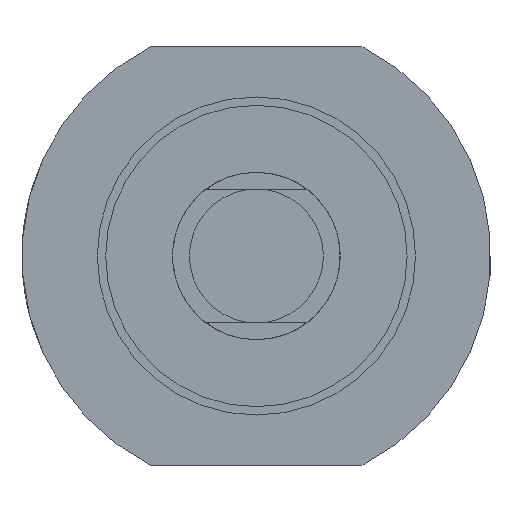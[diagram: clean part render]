
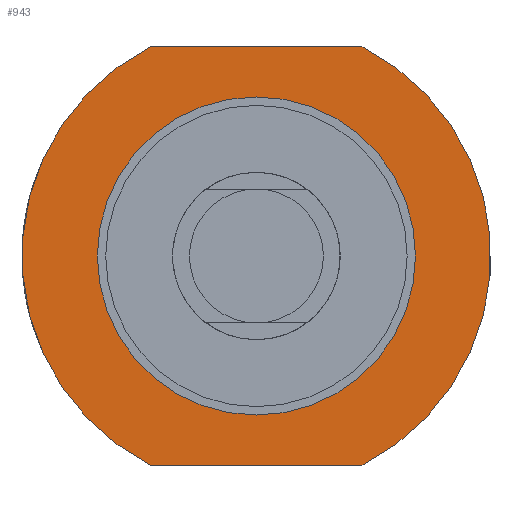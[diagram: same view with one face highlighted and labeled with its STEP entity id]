
A CAD part, left-side view. The second image highlights one B-rep face of the part: STEP entity #943.
In plain terms, the highlighted planar face has unit normal (-1, 0, 0).
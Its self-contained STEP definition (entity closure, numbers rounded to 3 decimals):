
#8 = ORIENTED_EDGE ( 'NONE', *, *, #417, .T. ) ;
#27 = ORIENTED_EDGE ( 'NONE', *, *, #1216, .F. ) ;
#99 = DIRECTION ( 'NONE',  ( 0., 0., -1. ) ) ;
#121 = DIRECTION ( 'NONE',  ( -1., 0., 0. ) ) ;
#123 = CARTESIAN_POINT ( 'NONE',  ( 34., 0., 0. ) ) ;
#144 = ORIENTED_EDGE ( 'NONE', *, *, #150, .F. ) ;
#150 = EDGE_CURVE ( 'NONE', #341, #1375, #1241, .T. ) ;
#156 = DIRECTION ( 'NONE',  ( -1., 0., 0. ) ) ;
#194 = DIRECTION ( 'NONE',  ( 0., -1., 0. ) ) ;
#207 = DIRECTION ( 'NONE',  ( 0., 0., 1. ) ) ;
#252 = CARTESIAN_POINT ( 'NONE',  ( 34., 11.874, 12.5 ) ) ;
#280 = AXIS2_PLACEMENT_3D ( 'NONE', #1367, #612, #207 ) ;
#297 = FACE_BOUND ( 'NONE', #1221, .T. ) ;
#329 = CARTESIAN_POINT ( 'NONE',  ( 34., 11.874, -12.5 ) ) ;
#341 = VERTEX_POINT ( 'NONE', #1443 ) ;
#352 = AXIS2_PLACEMENT_3D ( 'NONE', #1422, #121, #1183 ) ;
#417 = EDGE_CURVE ( 'NONE', #1238, #678, #725, .T. ) ;
#445 = EDGE_CURVE ( 'NONE', #605, #678, #624, .T. ) ;
#468 = VECTOR ( 'NONE', #194, 1000. ) ;
#549 = ORIENTED_EDGE ( 'NONE', *, *, #1132, .F. ) ;
#562 = CARTESIAN_POINT ( 'NONE',  ( 34., 6.305, -12.5 ) ) ;
#569 = ORIENTED_EDGE ( 'NONE', *, *, #445, .F. ) ;
#605 = VERTEX_POINT ( 'NONE', #1211 ) ;
#612 = DIRECTION ( 'NONE',  ( -1., 0., 0. ) ) ;
#624 = LINE ( 'NONE', #252, #468 ) ;
#654 = ORIENTED_EDGE ( 'NONE', *, *, #1633, .T. ) ;
#678 = VERTEX_POINT ( 'NONE', #1599 ) ;
#719 = DIRECTION ( 'NONE',  ( 1., 0., 0. ) ) ;
#725 = CIRCLE ( 'NONE', #352, 14. ) ;
#749 = FACE_OUTER_BOUND ( 'NONE', #1579, .T. ) ;
#772 = CARTESIAN_POINT ( 'NONE',  ( 34., 0., 0. ) ) ;
#845 = CIRCLE ( 'NONE', #1043, 9.5 ) ;
#943 = ADVANCED_FACE ( 'NONE', ( #297, #749 ), #1475, .F. ) ;
#980 = DIRECTION ( 'NONE',  ( -1., 0., 0. ) ) ;
#1043 = AXIS2_PLACEMENT_3D ( 'NONE', #772, #980, #1588 ) ;
#1100 = LINE ( 'NONE', #329, #1107 ) ;
#1107 = VECTOR ( 'NONE', #1315, 1000. ) ;
#1132 = EDGE_CURVE ( 'NONE', #1375, #341, #845, .T. ) ;
#1160 = CARTESIAN_POINT ( 'NONE',  ( 34., 0., -9.5 ) ) ;
#1183 = DIRECTION ( 'NONE',  ( 0., 0., 1. ) ) ;
#1195 = AXIS2_PLACEMENT_3D ( 'NONE', #123, #156, #1533 ) ;
#1211 = CARTESIAN_POINT ( 'NONE',  ( 34., 6.305, 12.5 ) ) ;
#1216 = EDGE_CURVE ( 'NONE', #1238, #1678, #1100, .T. ) ;
#1221 = EDGE_LOOP ( 'NONE', ( #144, #549 ) ) ;
#1238 = VERTEX_POINT ( 'NONE', #1291 ) ;
#1241 = CIRCLE ( 'NONE', #1195, 9.5 ) ;
#1291 = CARTESIAN_POINT ( 'NONE',  ( 34., -6.305, -12.5 ) ) ;
#1315 = DIRECTION ( 'NONE',  ( 0., 1., 0. ) ) ;
#1367 = CARTESIAN_POINT ( 'NONE',  ( 34., 0., 0. ) ) ;
#1375 = VERTEX_POINT ( 'NONE', #1160 ) ;
#1398 = CIRCLE ( 'NONE', #280, 14. ) ;
#1422 = CARTESIAN_POINT ( 'NONE',  ( 34., 0., 0. ) ) ;
#1443 = CARTESIAN_POINT ( 'NONE',  ( 34., 0., 9.5 ) ) ;
#1475 = PLANE ( 'NONE',  #1565 ) ;
#1533 = DIRECTION ( 'NONE',  ( 0., 0., 1. ) ) ;
#1565 = AXIS2_PLACEMENT_3D ( 'NONE', #1655, #719, #99 ) ;
#1579 = EDGE_LOOP ( 'NONE', ( #654, #27, #8, #569 ) ) ;
#1588 = DIRECTION ( 'NONE',  ( 0., 0., 1. ) ) ;
#1599 = CARTESIAN_POINT ( 'NONE',  ( 34., -6.305, 12.5 ) ) ;
#1633 = EDGE_CURVE ( 'NONE', #605, #1678, #1398, .T. ) ;
#1655 = CARTESIAN_POINT ( 'NONE',  ( 34., 0., -14. ) ) ;
#1678 = VERTEX_POINT ( 'NONE', #562 ) ;
